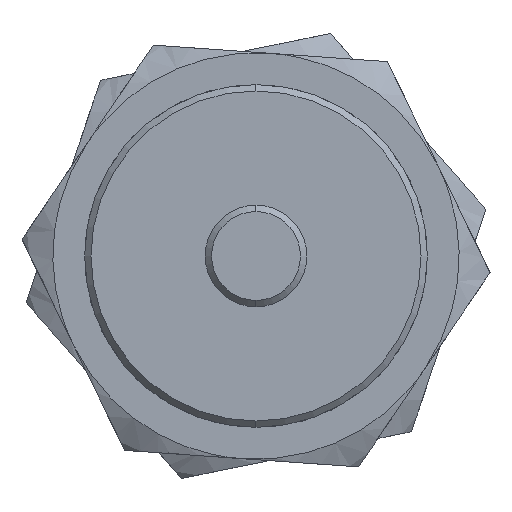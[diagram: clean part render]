
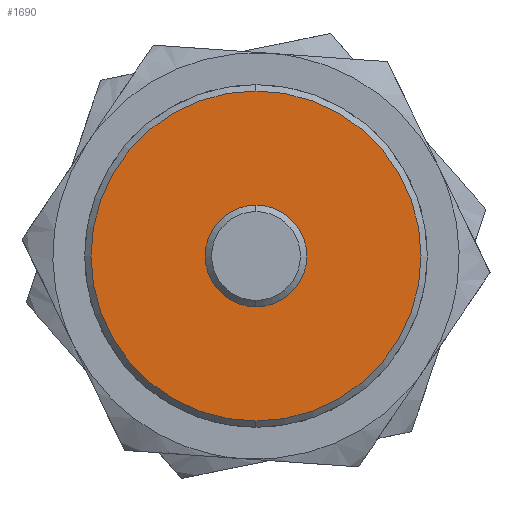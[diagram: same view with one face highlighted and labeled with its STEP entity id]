
A CAD part, left-side view. The second image highlights one B-rep face of the part: STEP entity #1690.
In plain terms, the highlighted planar face has unit normal (-1, 0, 0).
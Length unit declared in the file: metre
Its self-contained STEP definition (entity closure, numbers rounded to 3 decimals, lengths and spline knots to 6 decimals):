
#48 = AXIS2_PLACEMENT_3D ( 'NONE', #797, #1070, #256 ) ;
#52 = CARTESIAN_POINT ( 'NONE',  ( 0.025, 0., 0. ) ) ;
#83 = VERTEX_POINT ( 'NONE', #993 ) ;
#147 = CARTESIAN_POINT ( 'NONE',  ( 0.025, 0., 0. ) ) ;
#185 = DIRECTION ( 'NONE',  ( 0., 0., -1. ) ) ;
#188 = VERTEX_POINT ( 'NONE', #1648 ) ;
#199 = FACE_BOUND ( 'NONE', #482, .T. ) ;
#203 = EDGE_CURVE ( 'NONE', #188, #1088, #318, .T. ) ;
#226 = CARTESIAN_POINT ( 'NONE',  ( 0.025, 0., -0.013 ) ) ;
#256 = DIRECTION ( 'NONE',  ( 0., 0., -1. ) ) ;
#285 = EDGE_CURVE ( 'NONE', #1088, #188, #1674, .T. ) ;
#295 = AXIS2_PLACEMENT_3D ( 'NONE', #147, #1220, #1636 ) ;
#318 = CIRCLE ( 'NONE', #452, 0.004 ) ;
#452 = AXIS2_PLACEMENT_3D ( 'NONE', #958, #967, #1206 ) ;
#464 = ORIENTED_EDGE ( 'NONE', *, *, #741, .F. ) ;
#482 = EDGE_LOOP ( 'NONE', ( #1223, #899 ) ) ;
#494 = DIRECTION ( 'NONE',  ( 1., 0., 0. ) ) ;
#594 = CARTESIAN_POINT ( 'NONE',  ( 0.025, 0., -0.004 ) ) ;
#644 = AXIS2_PLACEMENT_3D ( 'NONE', #52, #1002, #185 ) ;
#741 = EDGE_CURVE ( 'NONE', #83, #748, #1191, .T. ) ;
#748 = VERTEX_POINT ( 'NONE', #226 ) ;
#797 = CARTESIAN_POINT ( 'NONE',  ( 0.025, -0.013156, 0.013156 ) ) ;
#899 = ORIENTED_EDGE ( 'NONE', *, *, #285, .T. ) ;
#927 = FACE_OUTER_BOUND ( 'NONE', #1650, .T. ) ;
#934 = PLANE ( 'NONE',  #48 ) ;
#958 = CARTESIAN_POINT ( 'NONE',  ( 0.025, 0., 0. ) ) ;
#967 = DIRECTION ( 'NONE',  ( 1., 0., 0. ) ) ;
#993 = CARTESIAN_POINT ( 'NONE',  ( 0.025, 0., 0.013 ) ) ;
#1002 = DIRECTION ( 'NONE',  ( 1., 0., 0. ) ) ;
#1012 = EDGE_CURVE ( 'NONE', #748, #83, #1702, .T. ) ;
#1033 = AXIS2_PLACEMENT_3D ( 'NONE', #1291, #494, #1445 ) ;
#1070 = DIRECTION ( 'NONE',  ( 1., 0., 0. ) ) ;
#1088 = VERTEX_POINT ( 'NONE', #594 ) ;
#1191 = CIRCLE ( 'NONE', #1033, 0.013 ) ;
#1206 = DIRECTION ( 'NONE',  ( 0., 0., 1. ) ) ;
#1220 = DIRECTION ( 'NONE',  ( 1., 0., 0. ) ) ;
#1223 = ORIENTED_EDGE ( 'NONE', *, *, #203, .T. ) ;
#1291 = CARTESIAN_POINT ( 'NONE',  ( 0.025, 0., 0. ) ) ;
#1445 = DIRECTION ( 'NONE',  ( 0., 0., -1. ) ) ;
#1636 = DIRECTION ( 'NONE',  ( 0., 0., 1. ) ) ;
#1648 = CARTESIAN_POINT ( 'NONE',  ( 0.025, 0., 0.004 ) ) ;
#1650 = EDGE_LOOP ( 'NONE', ( #1746, #464 ) ) ;
#1674 = CIRCLE ( 'NONE', #295, 0.004 ) ;
#1690 = ADVANCED_FACE ( 'NONE', ( #199, #927 ), #934, .F. ) ;
#1702 = CIRCLE ( 'NONE', #644, 0.013 ) ;
#1746 = ORIENTED_EDGE ( 'NONE', *, *, #1012, .F. ) ;
